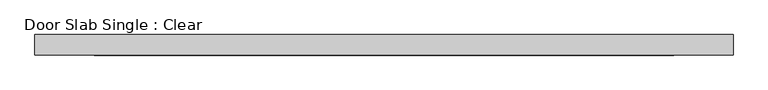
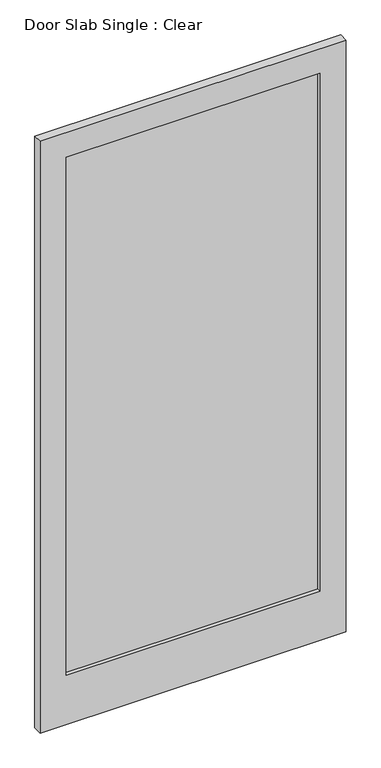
"""IFC4 building model written with IfcOpenShell, lengths in millimetres: proxy geometry, Door Slab Single : Clear."""

from ifc_helpers import new_model, si_unit, frame, origin, place, context, project, spatial, polyline, outline, extrude, source, transform, mapped, element, save


def door_slab_single_clear_bae8c83d(model_context):
    return source(origin(), model_context, "Body", "SweptSolid", [
        extrude(outline(polyline([(495.3, 3.175), (495.3, -3.175), (-495.3, -3.175), (-495.3, 3.175), (495.3, 3.175)])), frame((0.0, 0.0, 203.2), z_axis=(0.0, 0.0, 1.0), x_axis=(1.0, 0.0, 0.0)), (0.0, 0.0, 1.0), 2133.6),
        extrude(outline(polyline([(0.0, 596.9), (2438.4, 596.9), (2438.4, -596.9), (0.0, -596.9), (0.0, 596.9)]), holes=[polyline([(203.2, 495.3), (203.2, -495.3), (2336.8, -495.3), (2336.8, 495.3), (203.2, 495.3)])]), frame((0.0, -17.4625, 0.0), z_axis=(0.0, 1.0, 0.0), x_axis=(0.0, 0.0, 1.0)), (0.0, 0.0, 1.0), 34.925),
    ])


if __name__ == "__main__":
    model = new_model("IFC4")
    model_context = context("Model", 3, world=origin())
    ifc_project = project(units=[si_unit("LENGTHUNIT", "METRE", prefix="MILLI")], contexts=[model_context])
    site = spatial("IfcSite", under=ifc_project)
    building = spatial("IfcBuilding", under=site)
    placement = place(None, origin())
    door_slab_single_clear_shape = door_slab_single_clear_bae8c83d(model_context)
    element("IfcBuildingElementProxy", 1, Name="Door Slab Single : Clear", ObjectType="Door Slab Single : Clear", at=placement, inside=building, context=model_context, shape_type="MappedRepresentation", body=[
        mapped(door_slab_single_clear_shape, transform((0.0, 0.0, 0.0), x_axis=(1.0, 0.0, 0.0), y_axis=(0.0, 1.0, 0.0), z_axis=(0.0, 0.0, 1.0))),
    ])
    save(model, "model.ifc")
